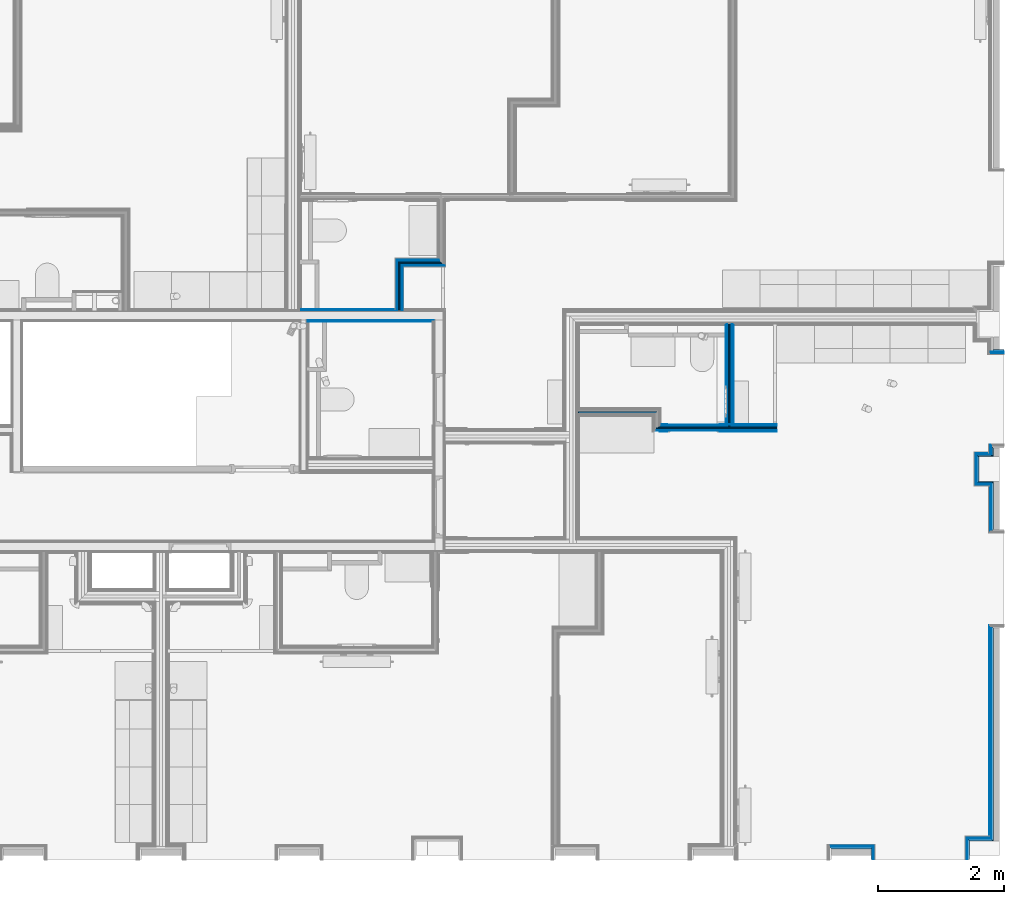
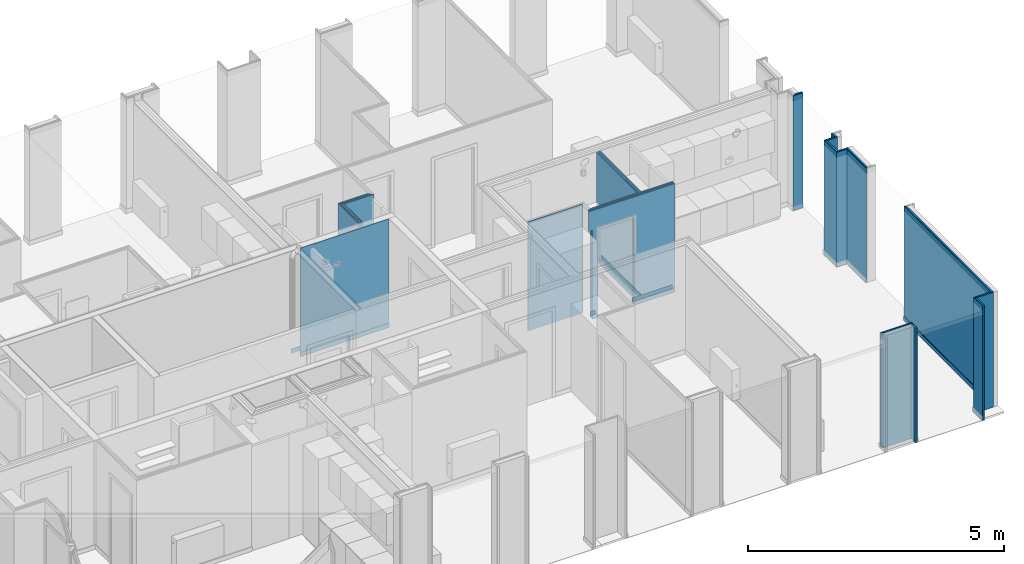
# One storey, part 21 of 85: 54 building element parts, 2 openings, 17 elements without a shape of their own.
"""IFC2X3 building model written with IfcOpenShell, lengths in metres."""

from ifc_helpers import new_model, entity, si_unit, converted_unit, derived_unit, money_unit, direction, frame, frame_2d, origin_with_axes, place, context, subcontext, project, spatial, polyline, rectangle, outline, extrude, material, type_object, element, aggregate, save


model = new_model("IFC2X3")

# Units and contexts
model_context = context("Model", 3, precision=1e-05, world=origin_with_axes(), true_north=direction((0.0, 1.0)))
body_context = subcontext(model_context, "Body", "Model", "MODEL_VIEW", scale=1.0)
ifc_project = project(units=[si_unit("LENGTHUNIT", "METRE"), si_unit("AREAUNIT", "SQUARE_METRE"), si_unit("VOLUMEUNIT", "CUBIC_METRE"), si_unit("ABSORBEDDOSEUNIT", "GRAY"), si_unit("AMOUNTOFSUBSTANCEUNIT", "MOLE"), si_unit("DOSEEQUIVALENTUNIT", "SIEVERT"), si_unit("ELECTRICCAPACITANCEUNIT", "FARAD"), si_unit("ELECTRICCHARGEUNIT", "COULOMB"), si_unit("ELECTRICCONDUCTANCEUNIT", "SIEMENS"), si_unit("ELECTRICCURRENTUNIT", "AMPERE"), si_unit("ELECTRICRESISTANCEUNIT", "OHM"), si_unit("ELECTRICVOLTAGEUNIT", "VOLT"), si_unit("ENERGYUNIT", "JOULE"), si_unit("FORCEUNIT", "NEWTON"), si_unit("FREQUENCYUNIT", "HERTZ"), si_unit("ILLUMINANCEUNIT", "LUX"), si_unit("INDUCTANCEUNIT", "HENRY"), si_unit("LUMINOUSFLUXUNIT", "LUMEN"), si_unit("LUMINOUSINTENSITYUNIT", "CANDELA"), si_unit("MAGNETICFLUXDENSITYUNIT", "TESLA"), si_unit("MAGNETICFLUXUNIT", "WEBER"), si_unit("MASSUNIT", "GRAM"), converted_unit("PLANEANGLEUNIT", "degree", entity("IfcReal", 0.0174532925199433), si_unit("PLANEANGLEUNIT", "RADIAN"), dimensions=[0, 0, 0, 0, 0, 0, 0]), si_unit("POWERUNIT", "WATT"), si_unit("PRESSUREUNIT", "PASCAL"), si_unit("RADIOACTIVITYUNIT", "BECQUEREL"), si_unit("SOLIDANGLEUNIT", "STERADIAN"), si_unit("THERMODYNAMICTEMPERATUREUNIT", "KELVIN"), si_unit("TIMEUNIT", "SECOND"), derived_unit("ACCELERATIONUNIT", [(si_unit("LENGTHUNIT", "METRE"), 1), (si_unit("TIMEUNIT", "SECOND"), -2)]), derived_unit("ANGULARVELOCITYUNIT", [(converted_unit("PLANEANGLEUNIT", "degree", entity("IfcReal", 0.0174532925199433), si_unit("PLANEANGLEUNIT", "RADIAN"), dimensions=[0, 0, 0, 0, 0, 0, 0]), 1), (si_unit("TIMEUNIT", "SECOND"), -1)]), derived_unit("CURVATUREUNIT", [(converted_unit("PLANEANGLEUNIT", "degree", entity("IfcReal", 0.0174532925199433), si_unit("PLANEANGLEUNIT", "RADIAN"), dimensions=[0, 0, 0, 0, 0, 0, 0]), 1), (si_unit("LENGTHUNIT", "METRE"), -1)]), derived_unit("DYNAMICVISCOSITYUNIT", [(si_unit("PRESSUREUNIT", "PASCAL"), 1), (si_unit("TIMEUNIT", "SECOND"), 1)]), derived_unit("HEATFLUXDENSITYUNIT", [(si_unit("POWERUNIT", "WATT"), 1), (si_unit("LENGTHUNIT", "METRE"), -2)]), derived_unit("HEATINGVALUEUNIT", [(si_unit("ENERGYUNIT", "JOULE"), 1), (si_unit("MASSUNIT", "GRAM"), -1)]), derived_unit("INTEGERCOUNTRATEUNIT", [(si_unit("TIMEUNIT", "SECOND"), -1)]), derived_unit("IONCONCENTRATIONUNIT", [(si_unit("MASSUNIT", "GRAM"), 1), (si_unit("VOLUMEUNIT", "CUBIC_METRE"), -1)]), derived_unit("ISOTHERMALMOISTURECAPACITYUNIT", [(si_unit("VOLUMEUNIT", "CUBIC_METRE"), 1), (si_unit("MASSUNIT", "GRAM"), -1)]), derived_unit("KINEMATICVISCOSITYUNIT", [(si_unit("AREAUNIT", "SQUARE_METRE"), 1), (si_unit("TIMEUNIT", "SECOND"), -1)]), derived_unit("LINEARFORCEUNIT", [(si_unit("FORCEUNIT", "NEWTON"), 1), (si_unit("LENGTHUNIT", "METRE"), -1)]), derived_unit("LINEARMOMENTUNIT", [(si_unit("FORCEUNIT", "NEWTON"), 1), (si_unit("LENGTHUNIT", "METRE"), -1)]), derived_unit("LINEARSTIFFNESSUNIT", [(si_unit("FORCEUNIT", "NEWTON"), 1), (si_unit("LENGTHUNIT", "METRE"), -1)]), derived_unit("LINEARVELOCITYUNIT", [(si_unit("LENGTHUNIT", "METRE"), 1), (si_unit("TIMEUNIT", "SECOND"), -1)]), derived_unit("LUMINOUSINTENSITYDISTRIBUTIONUNIT", [(si_unit("LUMINOUSINTENSITYUNIT", "CANDELA"), 1), (si_unit("LUMINOUSFLUXUNIT", "LUMEN"), -1)]), derived_unit("MASSDENSITYUNIT", [(si_unit("MASSUNIT", "GRAM"), 1), (si_unit("VOLUMEUNIT", "CUBIC_METRE"), -1)]), derived_unit("MASSFLOWRATEUNIT", [(si_unit("MASSUNIT", "GRAM"), 1), (si_unit("TIMEUNIT", "SECOND"), -1)]), derived_unit("MASSPERLENGTHUNIT", [(si_unit("MASSUNIT", "GRAM"), 1), (si_unit("LENGTHUNIT", "METRE"), -1)]), derived_unit("MODULUSOFELASTICITYUNIT", [(si_unit("FORCEUNIT", "NEWTON"), 1), (si_unit("AREAUNIT", "SQUARE_METRE"), -1)]), derived_unit("MODULUSOFLINEARSUBGRADEREACTIONUNIT", [(si_unit("FORCEUNIT", "NEWTON"), 1), (si_unit("LENGTHUNIT", "METRE"), -2)]), derived_unit("MODULUSOFROTATIONALSUBGRADEREACTIONUNIT", [(si_unit("FORCEUNIT", "NEWTON"), 1), (si_unit("LENGTHUNIT", "METRE"), 1)]), derived_unit("MODULUSOFSUBGRADEREACTIONUNIT", [(si_unit("FORCEUNIT", "NEWTON"), 1), (si_unit("VOLUMEUNIT", "CUBIC_METRE"), -1)]), derived_unit("MOISTUREDIFFUSIVITYUNIT", [(si_unit("VOLUMEUNIT", "CUBIC_METRE"), 1), (si_unit("TIMEUNIT", "SECOND"), -1)]), derived_unit("MOLECULARWEIGHTUNIT", [(si_unit("MASSUNIT", "GRAM"), 1), (si_unit("AMOUNTOFSUBSTANCEUNIT", "MOLE"), -1)]), derived_unit("PLANARFORCEUNIT", [(si_unit("FORCEUNIT", "NEWTON"), 1), (si_unit("LENGTHUNIT", "METRE"), -2)]), derived_unit("ROTATIONALFREQUENCYUNIT", [(si_unit("TIMEUNIT", "SECOND"), -1)]), derived_unit("ROTATIONALMASSUNIT", [(si_unit("MASSUNIT", "GRAM"), 1), (si_unit("LENGTHUNIT", "METRE"), 2)]), derived_unit("ROTATIONALSTIFFNESSUNIT", [(si_unit("FORCEUNIT", "NEWTON"), 1), (si_unit("LENGTHUNIT", "METRE"), 1), (converted_unit("PLANEANGLEUNIT", "degree", entity("IfcReal", 0.0174532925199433), si_unit("PLANEANGLEUNIT", "RADIAN"), dimensions=[0, 0, 0, 0, 0, 0, 0]), -1)]), derived_unit("SECTIONAREAINTEGRALUNIT", [(si_unit("LENGTHUNIT", "METRE"), 5)]), derived_unit("SECTIONMODULUSUNIT", [(si_unit("LENGTHUNIT", "METRE"), 3)]), derived_unit("SHEARMODULUSUNIT", [(si_unit("FORCEUNIT", "NEWTON"), 1), (si_unit("AREAUNIT", "SQUARE_METRE"), -1)]), derived_unit("SOUNDPOWERUNIT", [(si_unit("ENERGYUNIT", "JOULE"), 1), (si_unit("TIMEUNIT", "SECOND"), -1)]), derived_unit("SPECIFICHEATCAPACITYUNIT", [(si_unit("FORCEUNIT", "NEWTON"), 1), (si_unit("MASSUNIT", "GRAM"), -1), (si_unit("THERMODYNAMICTEMPERATUREUNIT", "KELVIN"), -1)]), derived_unit("TEMPERATUREGRADIENTUNIT", [(si_unit("THERMODYNAMICTEMPERATUREUNIT", "KELVIN"), 1), (si_unit("LENGTHUNIT", "METRE"), -1)]), derived_unit("THERMALADMITTANCEUNIT", [(si_unit("POWERUNIT", "WATT"), 1), (si_unit("AREAUNIT", "SQUARE_METRE"), -1), (si_unit("THERMODYNAMICTEMPERATUREUNIT", "KELVIN"), -1)]), derived_unit("THERMALCONDUCTANCEUNIT", [(si_unit("POWERUNIT", "WATT"), 1), (si_unit("LENGTHUNIT", "METRE"), -1), (si_unit("THERMODYNAMICTEMPERATUREUNIT", "KELVIN"), -1)]), derived_unit("THERMALEXPANSIONCOEFFICIENTUNIT", [(si_unit("THERMODYNAMICTEMPERATUREUNIT", "KELVIN"), -1)]), derived_unit("THERMALRESISTANCEUNIT", [(si_unit("AREAUNIT", "SQUARE_METRE"), 1), (si_unit("POWERUNIT", "WATT"), -1)]), derived_unit("THERMALTRANSMITTANCEUNIT", [(si_unit("POWERUNIT", "WATT"), 1), (si_unit("AREAUNIT", "SQUARE_METRE"), -1), (si_unit("THERMODYNAMICTEMPERATUREUNIT", "KELVIN"), -1)]), derived_unit("TORQUEUNIT", [(si_unit("FORCEUNIT", "NEWTON"), 1), (si_unit("LENGTHUNIT", "METRE"), 1)]), derived_unit("VAPORPERMEABILITYUNIT", [(si_unit("MASSUNIT", "GRAM"), 1), (si_unit("TIMEUNIT", "SECOND"), -1)]), derived_unit("VOLUMETRICFLOWRATEUNIT", [(si_unit("VOLUMEUNIT", "CUBIC_METRE"), 1), (si_unit("TIMEUNIT", "SECOND"), -1)]), derived_unit("WARPINGCONSTANTUNIT", [(si_unit("LENGTHUNIT", "METRE"), 6)]), derived_unit("WARPINGMOMENTUNIT", [(si_unit("FORCEUNIT", "NEWTON"), 1), (si_unit("LENGTHUNIT", "METRE"), 2)]), money_unit("GBP")], contexts=[model_context])

# Site, building, storey
site_placement = place(None, origin_with_axes())
site = spatial("IfcSite", under=ifc_project, at=site_placement, Name="Site", CompositionType="ELEMENT")
building_placement = place(site_placement, origin_with_axes())
building = spatial("IfcBuilding", under=site, at=building_placement, Name="Building01", CompositionType="ELEMENT")
storey_placement = place(building_placement, frame((0.0, 0.0, 12.13), z_axis=(0.0, 0.0, 1.0), x_axis=(1.0, 0.0, 0.0)))
storey = spatial("IfcBuildingStorey", under=building, at=storey_placement, Name="3F", CompositionType="ELEMENT", Elevation=12.13)

# Wall, building element parts
wall_type_1 = type_object("IfcWallType", Name="SHE_A-Walls_Type06d_ExternalWallInsulation_48mm", PredefinedType="NOTDEFINED")
wall_1_placement = place(storey_placement, frame((24.143, 0.27, 0.0), z_axis=(0.0, 0.0, 1.0), x_axis=(1.0, 0.0, 0.0)))
wall_1 = element("IfcWall", 1, at=wall_1_placement, inside=storey, type_object=wall_type_1, Name="6D", ObjectType="SHE_A-Walls_Type06d_ExternalWallInsulation_48mm")
ifc_material_1 = material(Name="A_BSUK_Insulation")
placement_1 = place(wall_1_placement, origin_with_axes())
building_element_part_1 = element("IfcBuildingElementPart", 2, at=placement_1, material=ifc_material_1, Name="1", context=body_context, shape_type="SweptSolid", body=[
    extrude(outline(polyline([(0.66, 0.036), (-0.036, 0.036), (0.0, 0.0), (0.624, 0.0), (0.66, 0.036)])), origin_with_axes(), (0.0, 0.0, 1.0), 2.74),
])
ifc_material_2 = material(Name="A_BSUK_WallInternal_Finishes_Plasterboard")
building_element_part_2 = element("IfcBuildingElementPart", 3, at=placement_1, material=ifc_material_2, Name="2", context=body_context, shape_type="SweptSolid", body=[
    extrude(outline(polyline([(0.672, 0.048), (-0.048, 0.048), (-0.035, 0.035), (0.659, 0.035), (0.672, 0.048)])), origin_with_axes(), (0.0, 0.0, 1.0), 2.74),
])
aggregate(wall_1, [building_element_part_1, building_element_part_2])

wall_2_placement = place(storey_placement, frame((24.767, 0.27, 0.0), z_axis=(0.0, 0.0, 1.0), x_axis=(0.0, -1.0, 0.0)))
wall_2 = element("IfcWall", 4, at=wall_2_placement, inside=storey, type_object=wall_type_1, Name="6D", ObjectType="SHE_A-Walls_Type06d_ExternalWallInsulation_48mm")
placement_2 = place(wall_2_placement, origin_with_axes())
building_element_part_3 = element("IfcBuildingElementPart", 5, at=placement_2, material=ifc_material_1, Name="1", context=body_context, shape_type="SweptSolid", body=[
    extrude(outline(polyline([(-0.036, 0.036), (0.0, 0.0), (0.17, 0.0), (0.17, 0.036), (-0.036, 0.036)])), origin_with_axes(), (0.0, 0.0, 1.0), 2.74),
])
building_element_part_4 = element("IfcBuildingElementPart", 6, at=placement_2, material=ifc_material_2, Name="2", context=body_context, shape_type="SweptSolid", body=[
    extrude(outline(polyline([(-0.048, 0.048), (-0.035, 0.035), (0.17, 0.035), (0.17, 0.048), (-0.048, 0.048)])), origin_with_axes(), (0.0, 0.0, 1.0), 2.74),
])
aggregate(wall_2, [building_element_part_3, building_element_part_4])

wall_3_placement = place(storey_placement, frame((26.333, 0.1, 0.0), z_axis=(0.0, 0.0, 1.0), x_axis=(0.0, 1.0, 0.0)))
wall_3 = element("IfcWall", 7, at=wall_3_placement, inside=storey, type_object=wall_type_1, Name="6D", ObjectType="SHE_A-Walls_Type06d_ExternalWallInsulation_48mm")
placement_3 = place(wall_3_placement, origin_with_axes())
building_element_part_5 = element("IfcBuildingElementPart", 8, at=placement_3, material=ifc_material_1, Name="1", context=body_context, shape_type="SweptSolid", body=[
    extrude(outline(polyline([(0.336, 0.036), (0.0, 0.036), (0.0, 0.0), (0.3, 0.0), (0.336, 0.036)])), origin_with_axes(), (0.0, 0.0, 1.0), 2.74),
])
building_element_part_6 = element("IfcBuildingElementPart", 9, at=placement_3, material=ifc_material_2, Name="2", context=body_context, shape_type="SweptSolid", body=[
    extrude(outline(polyline([(0.348, 0.048), (0.0, 0.048), (0.0, 0.035), (0.335, 0.035), (0.348, 0.048)])), origin_with_axes(), (0.0, 0.0, 1.0), 2.74),
])
aggregate(wall_3, [building_element_part_5, building_element_part_6])

wall_4_placement = place(storey_placement, frame((26.333, 0.4, 0.0), z_axis=(0.0, 0.0, 1.0), x_axis=(1.0, 0.0, 0.0)))
wall_4 = element("IfcWall", 10, at=wall_4_placement, inside=storey, type_object=wall_type_1, Name="6D", ObjectType="SHE_A-Walls_Type06d_ExternalWallInsulation_48mm")
placement_4 = place(wall_4_placement, origin_with_axes())
building_element_part_7 = element("IfcBuildingElementPart", 11, at=placement_4, material=ifc_material_1, Name="1", context=body_context, shape_type="SweptSolid", body=[
    extrude(outline(polyline([(0.341, 0.036), (-0.036, 0.036), (0.0, 0.0), (0.377, 0.0), (0.341, 0.036)])), origin_with_axes(), (0.0, 0.0, 1.0), 2.74),
])
building_element_part_8 = element("IfcBuildingElementPart", 12, at=placement_4, material=ifc_material_2, Name="2", context=body_context, shape_type="SweptSolid", body=[
    extrude(outline(polyline([(0.329, 0.048), (-0.048, 0.048), (-0.035, 0.035), (0.342, 0.035), (0.329, 0.048)])), origin_with_axes(), (0.0, 0.0, 1.0), 2.74),
])
aggregate(wall_4, [building_element_part_7, building_element_part_8])

wall_5_placement = place(storey_placement, frame((26.71, 0.4, 0.0), z_axis=(0.0, 0.0, 1.0), x_axis=(0.0, 1.0, 0.0)))
wall_5 = element("IfcWall", 13, at=wall_5_placement, inside=storey, type_object=wall_type_1, Name="6D", ObjectType="SHE_A-Walls_Type06d_ExternalWallInsulation_48mm")
placement_5 = place(wall_5_placement, origin_with_axes())
building_element_part_9 = element("IfcBuildingElementPart", 14, at=placement_5, material=ifc_material_1, Name="1", context=body_context, shape_type="SweptSolid", body=[
    extrude(outline(polyline([(3.41018, 0.036), (0.036, 0.036), (0.0, 0.0), (3.37418, 0.0), (3.41018, 0.036)])), origin_with_axes(), (0.0, 0.0, 1.0), 2.74),
])
building_element_part_10 = element("IfcBuildingElementPart", 15, at=placement_5, material=ifc_material_2, Name="2", context=body_context, shape_type="SweptSolid", body=[
    extrude(outline(polyline([(3.42218, 0.048), (0.048, 0.048), (0.035, 0.035), (3.40918, 0.035), (3.42218, 0.048)])), origin_with_axes(), (0.0, 0.0, 1.0), 2.74),
])
ifc_material_3 = material(Name="A_BSUK_Walls_Timber")
building_element_part_11 = element("IfcBuildingElementPart", 16, at=placement_5, material=ifc_material_3, Name="3", context=body_context, shape_type="SweptSolid", body=[
    extrude(outline(polyline([(0.063, 0.063), (0.048, 0.048), (3.42218, 0.048), (3.42218, 0.063), (0.063, 0.063)])), frame((0.0, 0.0, 0.015), z_axis=(0.0, 0.0, 1.0), x_axis=(1.0, 0.0, 0.0)), (0.0, 0.0, 1.0), 0.1),
])
aggregate(wall_5, [building_element_part_9, building_element_part_10, building_element_part_11])

wall_6_placement = place(storey_placement, frame((26.71, 5.34018, 0.0), z_axis=(0.0, 0.0, 1.0), x_axis=(0.0, 1.0, 0.0)))
wall_6 = element("IfcWall", 17, at=wall_6_placement, inside=storey, type_object=wall_type_1, Name="6D", ObjectType="SHE_A-Walls_Type06d_ExternalWallInsulation_48mm")
placement_6 = place(wall_6_placement, origin_with_axes())
building_element_part_12 = element("IfcBuildingElementPart", 18, at=placement_6, material=ifc_material_1, Name="1", context=body_context, shape_type="SweptSolid", body=[
    extrude(outline(polyline([(0.72382, 0.036), (-0.036, 0.036), (0.0, 0.0), (0.75982, 0.0), (0.72382, 0.036)])), origin_with_axes(), (0.0, 0.0, 1.0), 2.74),
])
building_element_part_13 = element("IfcBuildingElementPart", 19, at=placement_6, material=ifc_material_2, Name="2", context=body_context, shape_type="SweptSolid", body=[
    extrude(outline(polyline([(0.71182, 0.048), (-0.048, 0.048), (-0.035, 0.035), (0.72482, 0.035), (0.71182, 0.048)])), origin_with_axes(), (0.0, 0.0, 1.0), 2.74),
])
aggregate(wall_6, [building_element_part_12, building_element_part_13])

wall_7_placement = place(storey_placement, frame((26.71, 6.1, 0.0), z_axis=(0.0, 0.0, 1.0), x_axis=(-1.0, 0.0, 0.0)))
wall_7 = element("IfcWall", 20, at=wall_7_placement, inside=storey, type_object=wall_type_1, Name="6D", ObjectType="SHE_A-Walls_Type06d_ExternalWallInsulation_48mm")
placement_7 = place(wall_7_placement, origin_with_axes())
building_element_part_14 = element("IfcBuildingElementPart", 21, at=placement_7, material=ifc_material_1, Name="1", context=body_context, shape_type="SweptSolid", body=[
    extrude(outline(polyline([(0.266, 0.036), (0.036, 0.036), (0.0, 0.0), (0.23, 0.0), (0.266, 0.036)])), origin_with_axes(), (0.0, 0.0, 1.0), 2.74),
])
building_element_part_15 = element("IfcBuildingElementPart", 22, at=placement_7, material=ifc_material_2, Name="2", context=body_context, shape_type="SweptSolid", body=[
    extrude(outline(polyline([(0.278, 0.048), (0.048, 0.048), (0.035, 0.035), (0.265, 0.035), (0.278, 0.048)])), origin_with_axes(), (0.0, 0.0, 1.0), 2.74),
])
aggregate(wall_7, [building_element_part_14, building_element_part_15])

wall_8_placement = place(storey_placement, frame((26.48, 6.1, 0.0), z_axis=(0.0, 0.0, 1.0), x_axis=(0.0, 1.0, 0.0)))
wall_8 = element("IfcWall", 23, at=wall_8_placement, inside=storey, type_object=wall_type_1, Name="6D", ObjectType="SHE_A-Walls_Type06d_ExternalWallInsulation_48mm")
placement_8 = place(wall_8_placement, origin_with_axes())
building_element_part_16 = element("IfcBuildingElementPart", 24, at=placement_8, material=ifc_material_1, Name="1", context=body_context, shape_type="SweptSolid", body=[
    extrude(outline(polyline([(0.436, 0.036), (-0.036, 0.036), (0.0, 0.0), (0.4, 0.0), (0.436, 0.036)])), origin_with_axes(), (0.0, 0.0, 1.0), 2.74),
])
building_element_part_17 = element("IfcBuildingElementPart", 25, at=placement_8, material=ifc_material_2, Name="2", context=body_context, shape_type="SweptSolid", body=[
    extrude(outline(polyline([(0.448, 0.048), (-0.048, 0.048), (-0.035, 0.035), (0.435, 0.035), (0.448, 0.048)])), origin_with_axes(), (0.0, 0.0, 1.0), 2.74),
])
aggregate(wall_8, [building_element_part_16, building_element_part_17])

wall_9_placement = place(storey_placement, frame((26.48, 6.5, 0.0), z_axis=(0.0, 0.0, 1.0), x_axis=(1.0, 0.0, 0.0)))
wall_9 = element("IfcWall", 26, at=wall_9_placement, inside=storey, type_object=wall_type_1, Name="6D", ObjectType="SHE_A-Walls_Type06d_ExternalWallInsulation_48mm")
placement_9 = place(wall_9_placement, origin_with_axes())
building_element_part_18 = element("IfcBuildingElementPart", 27, at=placement_9, material=ifc_material_1, Name="1", context=body_context, shape_type="SweptSolid", body=[
    extrude(outline(polyline([(0.194, 0.036), (-0.036, 0.036), (0.0, 0.0), (0.23, 0.0), (0.194, 0.036)])), origin_with_axes(), (0.0, 0.0, 1.0), 2.74),
])
building_element_part_19 = element("IfcBuildingElementPart", 28, at=placement_9, material=ifc_material_2, Name="2", context=body_context, shape_type="SweptSolid", body=[
    extrude(outline(polyline([(0.182, 0.048), (-0.048, 0.048), (-0.035, 0.035), (0.195, 0.035), (0.182, 0.048)])), origin_with_axes(), (0.0, 0.0, 1.0), 2.74),
])
aggregate(wall_9, [building_element_part_18, building_element_part_19])

wall_10_placement = place(storey_placement, frame((26.71, 6.5, 0.0), z_axis=(0.0, 0.0, 1.0), x_axis=(0.0, 1.0, 0.0)))
wall_10 = element("IfcWall", 29, at=wall_10_placement, inside=storey, type_object=wall_type_1, Name="6D", ObjectType="SHE_A-Walls_Type06d_ExternalWallInsulation_48mm")
placement_10 = place(wall_10_placement, origin_with_axes())
building_element_part_20 = element("IfcBuildingElementPart", 30, at=placement_10, material=ifc_material_1, Name="1", context=body_context, shape_type="SweptSolid", body=[
    extrude(outline(polyline([(0.170326, 0.036), (0.036, 0.036), (0.0, 0.0), (0.134326, 0.0), (0.170326, 0.036)])), origin_with_axes(), (0.0, 0.0, 1.0), 2.74),
])
building_element_part_21 = element("IfcBuildingElementPart", 31, at=placement_10, material=ifc_material_2, Name="2", context=body_context, shape_type="SweptSolid", body=[
    extrude(outline(polyline([(0.182326, 0.048), (0.048, 0.048), (0.035, 0.035), (0.169326, 0.035), (0.182326, 0.048)])), origin_with_axes(), (0.0, 0.0, 1.0), 2.74),
])
aggregate(wall_10, [building_element_part_20, building_element_part_21])

wall_type_2 = type_object("IfcWallType", Name="SHE_A-Walls_Type05a_Partition_95mm_tall", PredefinedType="NOTDEFINED")
wall_11_placement = place(storey_placement, frame((17.273132, 8.82, 0.0), z_axis=(0.0, 0.0, 1.0), x_axis=(0.0, 1.0, 0.0)))
wall_11 = element("IfcWall", 32, at=wall_11_placement, inside=storey, type_object=wall_type_2, Name="5A", ObjectType="SHE_A-Walls_Type05a_Partition_95mm_tall")
placement_11 = place(wall_11_placement, origin_with_axes())
building_element_part_22 = element("IfcBuildingElementPart", 33, at=placement_11, material=ifc_material_2, Name="2", context=body_context, shape_type="SweptSolid", body=[
    extrude(outline(polyline([(0.717, -0.048), (0.0, -0.048), (0.0, -0.06), (0.705, -0.06), (0.717, -0.048)])), origin_with_axes(), (0.0, 0.0, 1.0), 2.59),
])
ifc_material_4 = material(Name="Air Cavity")
building_element_part_23 = element("IfcBuildingElementPart", 34, at=placement_11, material=ifc_material_4, Name="3", context=body_context, shape_type="SweptSolid", body=[
    extrude(outline(polyline([(0.74, -0.025), (0.0, -0.025), (0.0, -0.048), (0.717, -0.048), (0.74, -0.025)])), origin_with_axes(), (0.0, 0.0, 1.0), 2.59),
])
building_element_part_24 = element("IfcBuildingElementPart", 35, at=placement_11, material=ifc_material_1, Name="4", context=body_context, shape_type="SweptSolid", body=[
    extrude(outline(polyline([(0.765, 0.0), (0.0, 0.0), (0.0, -0.025), (0.74, -0.025), (0.765, 0.0)])), origin_with_axes(), (0.0, 0.0, 1.0), 2.59),
])
building_element_part_25 = element("IfcBuildingElementPart", 36, at=placement_11, material=ifc_material_4, Name="5", context=body_context, shape_type="SweptSolid", body=[
    extrude(outline(polyline([(0.788, 0.023), (0.0, 0.023), (0.0, 0.0), (0.765, 0.0), (0.788, 0.023)])), origin_with_axes(), (0.0, 0.0, 1.0), 2.59),
])
building_element_part_26 = element("IfcBuildingElementPart", 37, at=placement_11, material=ifc_material_2, Name="6", context=body_context, shape_type="SweptSolid", body=[
    extrude(outline(polyline([(0.8, 0.035), (0.0, 0.035), (0.0, 0.023), (0.788, 0.023), (0.8, 0.035)])), origin_with_axes(), (0.0, 0.0, 1.0), 2.59),
])
aggregate(wall_11, [building_element_part_22, building_element_part_23, building_element_part_24, building_element_part_25, building_element_part_26])

wall_12_placement = place(storey_placement, frame((17.273132, 9.585, 0.0), z_axis=(0.0, 0.0, 1.0), x_axis=(1.0, 0.0, 0.0)))
wall_12 = element("IfcWall", 38, at=wall_12_placement, inside=storey, type_object=wall_type_2, Name="5A", ObjectType="SHE_A-Walls_Type05a_Partition_95mm_tall")
placement_12 = place(wall_12_placement, origin_with_axes())
building_element_part_27 = element("IfcBuildingElementPart", 39, at=placement_12, material=ifc_material_2, Name="2", context=body_context, shape_type="SweptSolid", body=[
    extrude(outline(polyline([(0.714868, -0.048), (0.048, -0.048), (0.06, -0.06), (0.726868, -0.06), (0.714868, -0.048)])), origin_with_axes(), (0.0, 0.0, 1.0), 2.59),
])
building_element_part_28 = element("IfcBuildingElementPart", 40, at=placement_12, material=ifc_material_4, Name="3", context=body_context, shape_type="SweptSolid", body=[
    extrude(outline(polyline([(0.691868, -0.025), (0.025, -0.025), (0.048, -0.048), (0.714868, -0.048), (0.691868, -0.025)])), origin_with_axes(), (0.0, 0.0, 1.0), 2.59),
])
building_element_part_29 = element("IfcBuildingElementPart", 41, at=placement_12, material=ifc_material_1, Name="4", context=body_context, shape_type="SweptSolid", body=[
    extrude(outline(polyline([(0.666868, 0.0), (0.0, 0.0), (0.025, -0.025), (0.691868, -0.025), (0.666868, 0.0)])), origin_with_axes(), (0.0, 0.0, 1.0), 2.59),
])
building_element_part_30 = element("IfcBuildingElementPart", 42, at=placement_12, material=ifc_material_4, Name="5", context=body_context, shape_type="SweptSolid", body=[
    extrude(outline(polyline([(0.643868, 0.023), (-0.023, 0.023), (0.0, 0.0), (0.666868, 0.0), (0.643868, 0.023)])), origin_with_axes(), (0.0, 0.0, 1.0), 2.59),
])
building_element_part_31 = element("IfcBuildingElementPart", 43, at=placement_12, material=ifc_material_2, Name="6", context=body_context, shape_type="SweptSolid", body=[
    extrude(outline(polyline([(0.631868, 0.035), (-0.035, 0.035), (-0.023, 0.023), (0.643868, 0.023), (0.631868, 0.035)])), origin_with_axes(), (0.0, 0.0, 1.0), 2.59),
])
aggregate(wall_12, [building_element_part_27, building_element_part_28, building_element_part_29, building_element_part_30, building_element_part_31])

wall_type_3 = type_object("IfcWallType", Name="SHE_A-Walls_Type03a_BlockworkWall_170mm", PredefinedType="NOTDEFINED")
wall_13_placement = place(storey_placement, frame((17.985, 8.805, 0.0), z_axis=(0.0, 0.0, 1.0), x_axis=(-1.0, 0.0, 0.0)))
wall_13 = element("IfcWall", 44, at=wall_13_placement, inside=storey, type_object=wall_type_3, Name="4B", ObjectType="SHE_A-Walls_Type03a_BlockworkWall_170mm")
placement_13 = place(wall_13_placement, origin_with_axes())
building_element_part_32 = element("IfcBuildingElementPart", 45, at=placement_13, material=ifc_material_3, Name="6", context=body_context, shape_type="SweptSolid", body=[
    extrude(rectangle(XDim=1.515, YDim=0.015, at=frame_2d((1.504368, -0.0225), x_axis=(-1.0, 0.0))), frame((0.0, 0.0, 0.015), z_axis=(0.0, 0.0, 1.0), x_axis=(1.0, 0.0, 0.0)), (0.0, 0.0, 1.0), 0.1),
])
ifc_material_5 = material(Name="A_BSUK_WallInternal_Finishes_Plaster")
building_element_part_33 = element("IfcBuildingElementPart", 46, at=placement_13, material=ifc_material_5, Name="9", context=body_context, shape_type="SweptSolid", body=[
    extrude(rectangle(XDim=2.0, YDim=0.015, at=frame_2d((1.155, 0.1475), x_axis=(-1.0, 0.0))), origin_with_axes(), (0.0, 0.0, 1.0), 2.59),
])
building_element_part_34 = element("IfcBuildingElementPart", 47, at=placement_13, material=ifc_material_3, Name="12", context=body_context, shape_type="SweptSolid", body=[
    extrude(rectangle(XDim=2.0, YDim=0.015, at=frame_2d((1.155, 0.1625), x_axis=(-1.0, 0.0))), frame((0.0, 0.0, 0.015), z_axis=(0.0, 0.0, 1.0), x_axis=(1.0, 0.0, 0.0)), (0.0, 0.0, 1.0), 0.1),
])
aggregate(wall_13, [building_element_part_32, building_element_part_33, building_element_part_34])

# Wall, building element part
wall_14_placement = place(storey_placement, frame((21.382661, 7.215, 0.0), z_axis=(0.0, 0.0, 1.0), x_axis=(-1.0, 0.0, 0.0)))
wall_14 = element("IfcWall", 48, at=wall_14_placement, inside=storey, type_object=wall_type_2, Name="5A", ObjectType="SHE_A-Walls_Type05a_Partition_95mm_tall")
building_element_part_35_placement = place(wall_14_placement, origin_with_axes())
building_element_part_35 = element("IfcBuildingElementPart", 49, at=building_element_part_35_placement, material=ifc_material_1, Name="4", context=body_context, shape_type="SweptSolid", body=[
    extrude(outline(polyline([(1.26, 0.025), (0.025, 0.025), (0.0, 0.0), (1.26, 0.0), (1.26, 0.025)])), origin_with_axes(), (0.0, 0.0, 1.0), 2.59),
])
aggregate(wall_14, [building_element_part_35])

# Wall, openings, building element parts
wall_15_placement = place(storey_placement, frame((21.357661, 6.94, 0.0), z_axis=(0.0, 0.0, 1.0), x_axis=(1.0, 0.0, 0.0)))
wall_15 = element("IfcWall", 50, at=wall_15_placement, inside=storey, type_object=wall_type_2, Name="5A", ObjectType="SHE_A-Walls_Type05a_Partition_95mm_tall")
opening_1_placement = place(wall_15_placement, frame((-0.773, -0.05, -0.015), z_axis=(0.0, 0.0, 1.0), x_axis=(1.0, 0.0, 0.0)))
element("IfcOpeningElement", 51, at=opening_1_placement, cuts=wall_15, Name="Opening", ObjectType="Opening", context=body_context, shape_type="SweptSolid", body=[
    extrude(rectangle(XDim=0.834, YDim=2.142, at=frame_2d((-0.417, 1.071), x_axis=(1.0, 0.0))), frame((0.0, 0.0, 0.0), z_axis=(0.0, 1.0, 0.0), x_axis=(-1.0, 0.0, 0.0)), (0.0, 0.0, 1.0), 0.125),
])
opening_2_placement = place(wall_15_placement, frame((0.177, -0.05, 0.0), z_axis=(0.0, 0.0, 1.0), x_axis=(1.0, 0.0, 0.0)))
element("IfcOpeningElement", 52, at=opening_2_placement, cuts=wall_15, Name="Opening", ObjectType="Opening", context=body_context, shape_type="SweptSolid", body=[
    extrude(rectangle(XDim=2.142, YDim=0.834, at=frame_2d((-0.417, 1.071), x_axis=(0.0, -1.0))), frame((0.0, 0.0, 0.0), z_axis=(0.0, 1.0, 0.0), x_axis=(-1.0, 0.0, 0.0)), (0.0, 0.0, 1.0), 0.125),
])
placement_14 = place(wall_15_placement, origin_with_axes())
building_element_part_36 = element("IfcBuildingElementPart", 53, at=placement_14, material=ifc_material_3, Name="1", context=body_context, shape_type="SweptSolid", body=[
    extrude(outline(polyline([(1.913868, -0.035), (-0.035, -0.035), (-0.05, -0.05), (1.913868, -0.05), (1.913868, -0.035)])), frame((0.0, 0.0, 0.015), z_axis=(0.0, 0.0, 1.0), x_axis=(1.0, 0.0, 0.0)), (0.0, 0.0, 1.0), 0.1),
])
building_element_part_37 = element("IfcBuildingElementPart", 54, at=placement_14, material=ifc_material_2, Name="2", context=body_context, shape_type="SweptSolid", body=[
    extrude(outline(polyline([(1.913868, -0.023), (-0.023, -0.023), (-0.035, -0.035), (1.913868, -0.035), (1.913868, -0.023)])), origin_with_axes(), (0.0, 0.0, 1.0), 2.59),
])
building_element_part_38 = element("IfcBuildingElementPart", 55, at=placement_14, material=ifc_material_4, Name="3", context=body_context, shape_type="SweptSolid", body=[
    extrude(outline(polyline([(1.913868, 0.0), (0.0, 0.0), (-0.023, -0.023), (1.913868, -0.023), (1.913868, 0.0)])), origin_with_axes(), (0.0, 0.0, 1.0), 2.59),
])
building_element_part_39 = element("IfcBuildingElementPart", 56, at=placement_14, material=ifc_material_1, Name="4", context=body_context, shape_type="SweptSolid", body=[
    extrude(rectangle(XDim=1.913868, YDim=0.025, at=frame_2d((0.956934, 0.0125), x_axis=(-1.0, 0.0))), origin_with_axes(), (0.0, 0.0, 1.0), 2.59),
])
building_element_part_40 = element("IfcBuildingElementPart", 57, at=placement_14, material=ifc_material_4, Name="5", context=body_context, shape_type="SweptSolid", body=[
    extrude(rectangle(XDim=1.913868, YDim=0.023, at=frame_2d((0.956934, 0.0365), x_axis=(-1.0, 0.0))), origin_with_axes(), (0.0, 0.0, 1.0), 2.59),
])
building_element_part_41 = element("IfcBuildingElementPart", 58, at=placement_14, material=ifc_material_2, Name="6", context=body_context, shape_type="SweptSolid", body=[
    extrude(outline(polyline([(1.131, 0.06), (0.06, 0.06), (0.048, 0.048), (1.131, 0.048), (1.131, 0.06)])), origin_with_axes(), (0.0, 0.0, 1.0), 2.59),
])
building_element_part_42 = element("IfcBuildingElementPart", 59, at=placement_14, material=ifc_material_2, Name="7", context=body_context, shape_type="SweptSolid", body=[
    extrude(rectangle(XDim=0.711868, YDim=0.012, at=frame_2d((1.557934, 0.054), x_axis=(-1.0, 0.0))), origin_with_axes(), (0.0, 0.0, 1.0), 2.59),
])
building_element_part_43 = element("IfcBuildingElementPart", 60, at=placement_14, material=ifc_material_3, Name="8", context=body_context, shape_type="SweptSolid", body=[
    extrude(outline(polyline([(1.119, 0.075), (0.075, 0.075), (0.06, 0.06), (1.119, 0.06), (1.119, 0.075)])), frame((0.0, 0.0, 0.015), z_axis=(0.0, 0.0, 1.0), x_axis=(1.0, 0.0, 0.0)), (0.0, 0.0, 1.0), 0.1),
])
building_element_part_44 = element("IfcBuildingElementPart", 61, at=placement_14, material=ifc_material_3, Name="9", context=body_context, shape_type="SweptSolid", body=[
    extrude(outline(polyline([(1.913868, 0.075), (0.075, 0.075), (0.06, 0.06), (1.913868, 0.06), (1.913868, 0.075)])), frame((0.0, 0.0, 0.015), z_axis=(0.0, 0.0, 1.0), x_axis=(1.0, 0.0, 0.0)), (0.0, 0.0, 1.0), 0.1),
])
aggregate(wall_15, [building_element_part_36, building_element_part_37, building_element_part_38, building_element_part_39, building_element_part_40, building_element_part_41, building_element_part_42, building_element_part_43, building_element_part_44])

# Wall, building element parts
wall_16_placement = place(storey_placement, frame((22.536661, 6.965, 0.0), z_axis=(0.0, 0.0, 1.0), x_axis=(0.0, 1.0, 0.0)))
wall_16 = element("IfcWall", 62, at=wall_16_placement, inside=storey, type_object=wall_type_2, Name="5A", ObjectType="SHE_A-Walls_Type05a_Partition_95mm_tall")
placement_15 = place(wall_16_placement, origin_with_axes())
building_element_part_45 = element("IfcBuildingElementPart", 63, at=placement_15, material=ifc_material_3, Name="1", context=body_context, shape_type="SweptSolid", body=[
    extrude(rectangle(XDim=1.565, YDim=0.015, at=frame_2d((0.8325, -0.0425), x_axis=(-1.0, 0.0))), frame((0.0, 0.0, 0.015), z_axis=(0.0, 0.0, 1.0), x_axis=(1.0, 0.0, 0.0)), (0.0, 0.0, 1.0), 0.1),
])
building_element_part_46 = element("IfcBuildingElementPart", 64, at=placement_15, material=ifc_material_2, Name="2", context=body_context, shape_type="SweptSolid", body=[
    extrude(rectangle(XDim=1.595, YDim=0.012, at=frame_2d((0.8325, -0.029), x_axis=(-1.0, 0.0))), origin_with_axes(), (0.0, 0.0, 1.0), 2.59),
])
building_element_part_47 = element("IfcBuildingElementPart", 65, at=placement_15, material=ifc_material_4, Name="3", context=body_context, shape_type="SweptSolid", body=[
    extrude(rectangle(XDim=1.595, YDim=0.023, at=frame_2d((0.8325, -0.0115), x_axis=(-1.0, 0.0))), origin_with_axes(), (0.0, 0.0, 1.0), 2.59),
])
building_element_part_48 = element("IfcBuildingElementPart", 66, at=placement_15, material=ifc_material_1, Name="4", context=body_context, shape_type="SweptSolid", body=[
    extrude(rectangle(XDim=1.63, YDim=0.025, at=frame_2d((0.815, 0.0125), x_axis=(-1.0, 0.0))), origin_with_axes(), (0.0, 0.0, 1.0), 2.59),
])
building_element_part_49 = element("IfcBuildingElementPart", 67, at=placement_15, material=ifc_material_4, Name="5", context=body_context, shape_type="SweptSolid", body=[
    extrude(rectangle(XDim=1.63, YDim=0.023, at=frame_2d((0.815, 0.0365), x_axis=(-1.0, 0.0))), origin_with_axes(), (0.0, 0.0, 1.0), 2.59),
])
building_element_part_50 = element("IfcBuildingElementPart", 68, at=placement_15, material=ifc_material_2, Name="6", context=body_context, shape_type="SweptSolid", body=[
    extrude(rectangle(XDim=1.595, YDim=0.012, at=frame_2d((0.8325, 0.054), x_axis=(-1.0, 0.0))), origin_with_axes(), (0.0, 0.0, 1.0), 2.59),
])
building_element_part_51 = element("IfcBuildingElementPart", 69, at=placement_15, material=ifc_material_3, Name="7", context=body_context, shape_type="SweptSolid", body=[
    extrude(rectangle(XDim=1.565, YDim=0.015, at=frame_2d((0.8325, 0.0675), x_axis=(-1.0, 0.0))), frame((0.0, 0.0, 0.015), z_axis=(0.0, 0.0, 1.0), x_axis=(1.0, 0.0, 0.0)), (0.0, 0.0, 1.0), 0.1),
])
aggregate(wall_16, [building_element_part_45, building_element_part_46, building_element_part_47, building_element_part_48, building_element_part_49, building_element_part_50, building_element_part_51])

wall_type_4 = type_object("IfcWallType", Name="SHE_A-Walls_Type06f_ExternalWallInsulation_48+15mm", PredefinedType="NOTDEFINED")
wall_17_placement = place(storey_placement, frame((26.879178, 8.200326, 0.0), z_axis=(0.0, 0.0, 1.0), x_axis=(-1.0, 0.0, 0.0)))
wall_17 = element("IfcWall", 70, at=wall_17_placement, inside=storey, type_object=wall_type_4, Name="6F", ObjectType="SHE_A-Walls_Type06f_ExternalWallInsulation_48+15mm")
placement_16 = place(wall_17_placement, origin_with_axes())
building_element_part_52 = element("IfcBuildingElementPart", 71, at=placement_16, material=ifc_material_1, Name="1", context=body_context, shape_type="SweptSolid", body=[
    extrude(rectangle(XDim=0.17, YDim=0.036, at=frame_2d((0.085, 0.018), x_axis=(-1.0, 0.0))), origin_with_axes(), (0.0, 0.0, 1.0), 2.74),
])
building_element_part_53 = element("IfcBuildingElementPart", 72, at=placement_16, material=ifc_material_2, Name="2", context=body_context, shape_type="SweptSolid", body=[
    extrude(rectangle(XDim=0.206, YDim=0.012, at=frame_2d((0.103, 0.042), x_axis=(-1.0, 0.0))), origin_with_axes(), (0.0, 0.0, 1.0), 2.74),
])
building_element_part_54 = element("IfcBuildingElementPart", 73, at=placement_16, material=ifc_material_2, Name="3", context=body_context, shape_type="SweptSolid", body=[
    extrude(outline(polyline([(0.233, 0.063), (0.0, 0.063), (0.0, 0.048), (0.218, 0.048), (0.233, 0.063)])), origin_with_axes(), (0.0, 0.0, 1.0), 2.74),
])
aggregate(wall_17, [building_element_part_52, building_element_part_53, building_element_part_54])

save(model, "model.ifc")
